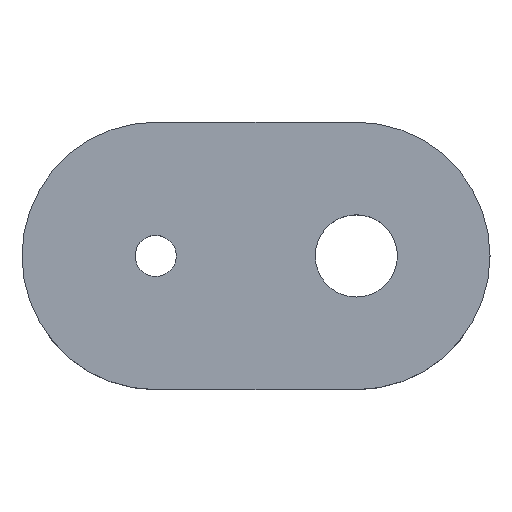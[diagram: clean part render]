
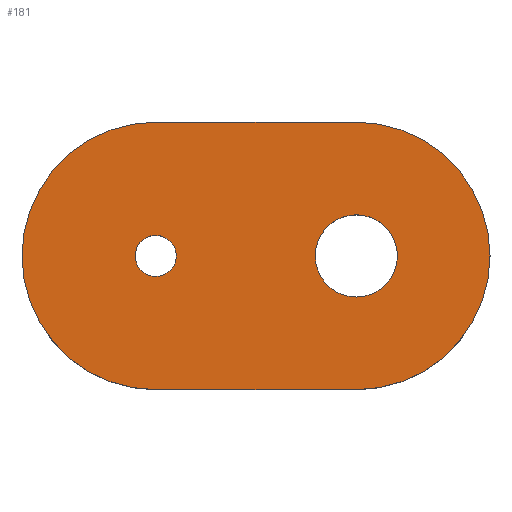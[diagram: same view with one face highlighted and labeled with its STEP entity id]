
A CAD part, top view. The second image highlights one B-rep face of the part: STEP entity #181.
In plain terms, the highlighted planar face has unit normal (0, 0, 1).
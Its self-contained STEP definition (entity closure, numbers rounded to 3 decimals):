
#47=FACE_BOUND('',#70,.T.);
#48=FACE_BOUND('',#71,.T.);
#53=PLANE('',#220);
#61=FACE_OUTER_BOUND('',#69,.T.);
#69=EDGE_LOOP('',(#159,#160,#161,#162));
#70=EDGE_LOOP('',(#163));
#71=EDGE_LOOP('',(#164));
#77=LINE('',#300,#87);
#82=LINE('',#314,#92);
#87=VECTOR('',#246,10.);
#92=VECTOR('',#259,10.);
#95=CIRCLE('',#207,1.23);
#97=CIRCLE('',#210,2.459);
#99=CIRCLE('',#214,8.);
#101=CIRCLE('',#218,8.);
#105=VERTEX_POINT('',#286);
#107=VERTEX_POINT('',#292);
#109=VERTEX_POINT('',#298);
#110=VERTEX_POINT('',#299);
#113=VERTEX_POINT('',#307);
#115=VERTEX_POINT('',#313);
#117=EDGE_CURVE('',#105,#105,#95,.T.);
#120=EDGE_CURVE('',#107,#107,#97,.T.);
#123=EDGE_CURVE('',#109,#110,#77,.T.);
#127=EDGE_CURVE('',#110,#113,#99,.T.);
#130=EDGE_CURVE('',#113,#115,#82,.T.);
#133=EDGE_CURVE('',#115,#109,#101,.T.);
#159=ORIENTED_EDGE('',*,*,#123,.F.);
#160=ORIENTED_EDGE('',*,*,#133,.F.);
#161=ORIENTED_EDGE('',*,*,#130,.F.);
#162=ORIENTED_EDGE('',*,*,#127,.F.);
#163=ORIENTED_EDGE('',*,*,#117,.T.);
#164=ORIENTED_EDGE('',*,*,#120,.T.);
#181=ADVANCED_FACE('',(#61,#47,#48),#53,.T.);
#207=AXIS2_PLACEMENT_3D('',#287,#232,#233);
#210=AXIS2_PLACEMENT_3D('',#293,#239,#240);
#214=AXIS2_PLACEMENT_3D('',#308,#252,#253);
#218=AXIS2_PLACEMENT_3D('',#319,#264,#265);
#220=AXIS2_PLACEMENT_3D('',#321,#268,#269);
#232=DIRECTION('center_axis',(0.,0.,-1.));
#233=DIRECTION('ref_axis',(1.,0.,0.));
#239=DIRECTION('center_axis',(0.,0.,-1.));
#240=DIRECTION('ref_axis',(1.,0.,0.));
#246=DIRECTION('',(-1.,0.,0.));
#252=DIRECTION('center_axis',(0.,0.,-1.));
#253=DIRECTION('ref_axis',(0.,1.,0.));
#259=DIRECTION('',(1.,0.,0.));
#264=DIRECTION('center_axis',(0.,0.,-1.));
#265=DIRECTION('ref_axis',(0.,-1.,0.));
#268=DIRECTION('center_axis',(0.,0.,1.));
#269=DIRECTION('ref_axis',(1.,0.,0.));
#286=CARTESIAN_POINT('',(-1.23,0.,6.));
#287=CARTESIAN_POINT('Origin',(0.,0.,6.));
#292=CARTESIAN_POINT('',(9.542,0.,6.));
#293=CARTESIAN_POINT('Origin',(12.,0.,6.));
#298=CARTESIAN_POINT('',(12.,-8.,6.));
#299=CARTESIAN_POINT('',(0.,-8.,6.));
#300=CARTESIAN_POINT('',(0.,-8.,6.));
#307=CARTESIAN_POINT('',(0.,8.,6.));
#308=CARTESIAN_POINT('Origin',(0.,0.,6.));
#313=CARTESIAN_POINT('',(12.,8.,6.));
#314=CARTESIAN_POINT('',(12.,8.,6.));
#319=CARTESIAN_POINT('Origin',(12.,0.,6.));
#321=CARTESIAN_POINT('Origin',(6.,0.,6.));
